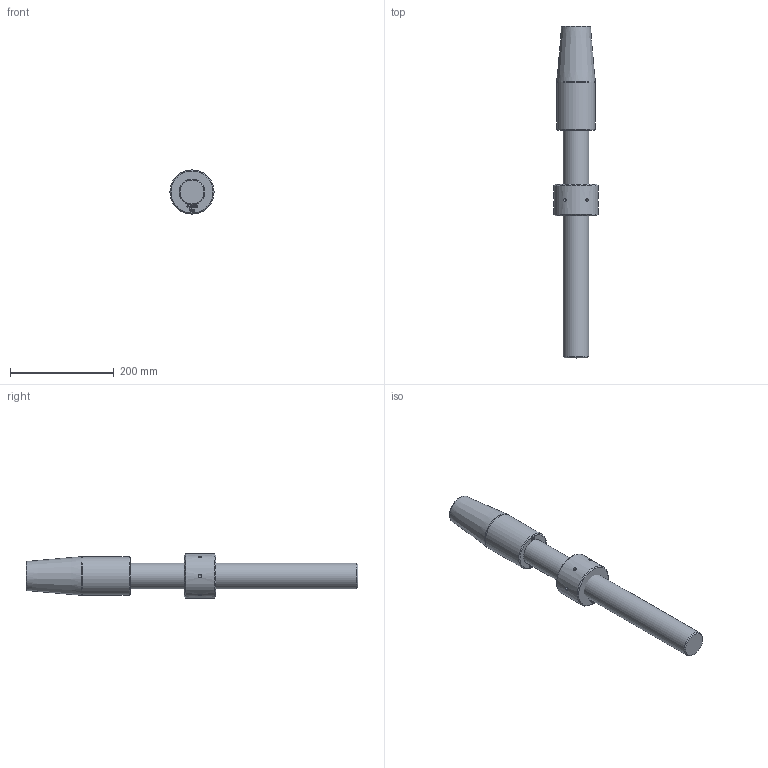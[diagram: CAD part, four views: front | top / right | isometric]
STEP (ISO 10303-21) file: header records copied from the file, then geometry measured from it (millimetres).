
FILE_DESCRIPTION(/* description */ (''),/* implementation_level */ '2;1');
FILE_NAME(/* name */ 'C:\Users\ranca\Desktop\CYM\ARRANGEMENT\CYM024 52 061 0.stp',/* time_stamp */ '2021-04-21T19:21:14+02:00',/* author */ ('ranca'),/* organization */ (''),/* preprocessor_version */ 'ST-DEVELOPER v16.13',/* originating_system */ 'Autodesk Inventor 2018',/* authorisation */ '');
FILE_SCHEMA (('AUTOMOTIVE_DESIGN { 1 0 10303 214 3 1 1 }'));
Length unit declared in the file: millimetre
Products named in the file (4): CYB012-52-061-0; CYM012-52-061-0_ROD; CYC024 52 065 0_CYL SOK_RH; CYM024-41-051-0
Assembly tree (3 placements, depth 2):
  CYB012-52-061-0
    CYM012-52-061-0_ROD
    CYC024 52 065 0_CYL SOK_RH
    CYM024-41-051-0
Bounding box: 85 x 641 x 85 mm (x, y, z)
Volume: 2090299 mm3; surface area: 160831.4 mm2
Topology: 3 solids, 3 shells, 516 faces, 1384 edges, 920 vertices
Faces by surface type: plane 248, bspline 245, cone 11, cylinder 10, torus 2
Full cylindrical faces by diameter (mm): 6 x6, 50 x1, 51 x1, 75 x1, 85 x1
Entity records: 17426 total; most frequent: CARTESIAN_POINT 6201, ORIENTED_EDGE 2708, DIRECTION 1433, EDGE_CURVE 1354, VERTEX_POINT 914, LINE 829, VECTOR 829, EDGE_LOOP 586
